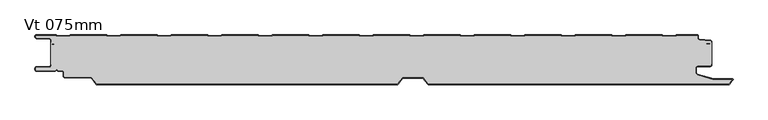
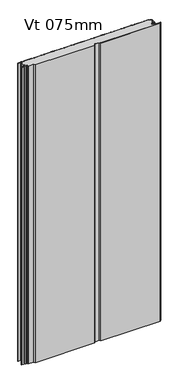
"""IFC4 building model written with IfcOpenShell, lengths in millimetres: plate geometry, KIP-MEX-KW-R19-CP-Vt-KW1_SL : Vt 075mm."""

from ifc_helpers import new_model, si_unit, point, frame, frame_2d, origin, origin_with_axes, place, context, project, spatial, polyline, circle_curve, trimmed, segment, composite_curve, outline, extrude, source, transform, mapped, element, save
from ifc_brep_helpers import plane_surface, cylinder_surface, revolved_surface, advanced_brep


def vt_075mm_7d98ffc3(model_context):
    return source(origin(), model_context, "Body", "SolidModel", [
        advanced_brep(
        [(488.7785899, -14.1740781, 2400.0), (488.6914342, -13.1778834, 2400.0), (494.4799801, -12.6714513, 2400.0), (495.7350457, -11.7512327, 2400.0), (495.7350457, -9.8277288, 2400.0), (494.4792848, -8.9074494, 2400.0), (478.1842394, -7.4894566, 2400.0), (475.4443161, -4.5007512, 2400.0), (475.4443161, -1.0007512, 2400.0), (443.8382986, -1.0007512, 2400.0), (442.7532001, -2.1994992, 2400.0), (422.8212217, -2.1994992, 2400.0), (421.7346975, -1.0, 2400.0), (367.6854138, -1.0, 2400.0), (366.6003153, -2.1994992, 2400.0), (346.668337, -2.1994992, 2400.0), (345.5818127, -1.0, 2400.0), (291.5325291, -1.0, 2400.0), (290.4474305, -2.1994992, 2400.0), (270.5154522, -2.1994992, 2400.0), (269.4289279, -1.0, 2400.0), (215.3796443, -1.0, 2400.0), (214.2945458, -2.1994992, 2400.0), (194.3625675, -2.1994992, 2400.0), (193.2760432, -1.0, 2400.0), (139.2267595, -1.0, 2400.0), (138.141661, -2.1994992, 2400.0), (118.2096827, -2.1994992, 2400.0), (117.1231584, -1.0, 2400.0), (63.0738748, -1.0, 2400.0), (61.9887763, -2.1994992, 2400.0), (42.0567979, -2.1994992, 2400.0), (40.9702737, -1.0, 2400.0), (-13.07901, -1.0, 2400.0), (-14.1641085, -2.1994992, 2400.0), (-34.0960868, -2.1994992, 2400.0), (-35.1826111, -1.0, 2400.0), (-89.230469, -1.0, 2400.0), (-90.3169933, -2.1994992, 2400.0), (-110.2489716, -2.1994992, 2400.0), (-111.3354959, -1.0, 2400.0), (-165.3847795, -1.0, 2400.0), (-166.469878, -2.1994992, 2400.0), (-186.4018563, -2.1994992, 2400.0), (-187.4883806, -1.0, 2400.0), (-241.5362385, -1.0, 2400.0), (-242.6227628, -2.1994992, 2400.0), (-262.5547411, -2.1994992, 2400.0), (-263.6412654, -1.0, 2400.0), (-317.6891233, -1.0, 2400.0), (-318.7756475, -2.1994992, 2400.0), (-338.7076259, -2.1994992, 2400.0), (-339.7941501, -1.0, 2400.0), (-393.842008, -1.0, 2400.0), (-394.9285323, -2.1994992, 2400.0), (-414.8605106, -2.1994992, 2400.0), (-415.9470349, -1.0, 2400.0), (-469.9948928, -1.0, 2400.0), (-471.0814171, -2.1994992, 2400.0), (-491.0133954, -2.1994992, 2400.0), (-492.0999197, -1.0, 2400.0), (-522.505765, -1.0, 2400.0), (-522.505765, -2.5012654, 2400.0), (-520.006135, -5.0008953, 2400.0), (-502.0093092, -5.0008953, 2400.0), (-499.0079862, -8.000131, 2400.0), (-499.0079862, -11.5959732, 2400.0), (-497.766763, -13.0740828, 2400.0), (-494.2244631, -13.6959552, 2400.0), (-494.3973742, -14.6808886, 2400.0), (-497.9396714, -14.0590166, 2400.0), (-500.0000002, -11.7956848, 2400.0), (-500.0000002, -44.3622712, 2400.0), (-497.5115855, -41.8719911, 2400.0), (-492.2480458, -41.8719911, 2400.0), (-492.2480458, -42.8888414, 2400.0), (-497.5062725, -42.8888414, 2400.0), (-499.0056881, -44.3893811, 2400.0), (-499.0056881, -45.8143642, 2400.0), (-502.0059127, -48.8979571, 2400.0), (-521.0430726, -48.8979571, 2400.0), (-522.5064405, -50.3983418, 2400.0), (-522.5064405, -52.3814897, 2400.0), (-521.0062107, -53.8817196, 2400.0), (-493.1202477, -53.8817196, 2400.0), (-490.7060117, -51.4674051, 2400.0), (-488.2917757, -53.8815626, 2400.0), (-482.7060145, -53.8815626, 2400.0), (-479.7060088, -56.8815682, 2400.0), (-479.7060088, -62.3815743, 2400.0), (-478.2556825, -63.8807501, 2400.0), (-438.275811, -63.8807501, 2400.0), (-430.367997, -74.0007512, 2400.0), (22.6630904, -74.0007512, 2400.0), (30.6636913, -64.0, 2400.0), (61.624941, -64.0, 2400.0), (69.6255419, -74.0007512, 2400.0), (522.656057, -74.0007512, 2400.0), (527.9339159, -67.2461374, 2400.0), (499.5757533, -67.2461374, 2400.0), (474.8575959, -60.1479029, 2400.0), (472.6935242, -57.2749195, 2400.0), (472.6935242, -49.8076629, 2400.0), (475.71441, -46.786777, 2400.0), (494.2379226, -46.786777, 2400.0), (495.7320319, -45.2926678, 2400.0), (495.7320319, -43.743257, 2400.0), (494.2336758, -42.244901, 2400.0), (489.7350458, -42.244901, 2400.0), (489.7350458, -41.2447029, 2400.0), (494.2339235, -41.2447029, 2400.0), (496.7325767, -43.7433561, 2400.0), (496.7325767, -11.9319683, 2400.0), (494.5671358, -13.667646, 2400.0), (488.7785899, -14.1740781, 0.0), (494.5671358, -13.667646, 0.0), (496.7325767, -11.9319683, 0.0), (496.7325767, -43.7433561, 0.0), (494.2339235, -41.2447029, 0.0), (489.7350458, -41.2447029, 0.0), (489.7350458, -42.244901, 0.0), (494.2336758, -42.244901, 0.0), (495.7320319, -43.743257, 0.0), (495.7320319, -45.2926678, 0.0), (494.2379226, -46.786777, 0.0), (475.71441, -46.786777, 0.0), (472.6935242, -49.8076629, 0.0), (472.6935242, -57.2749195, 0.0), (474.8575958, -60.1479032, 0.0), (499.5757533, -67.2461374, 0.0), (527.9339159, -67.2461374, 0.0), (522.656057, -74.0007512, 0.0), (69.6255419, -74.0007512, 0.0), (61.624941, -64.0, 0.0), (30.6636913, -64.0, 0.0), (22.6630904, -74.0007512, 0.0), (-430.367997, -74.0007512, 0.0), (-438.275811, -63.8807501, 0.0), (-478.2556825, -63.8807501, 0.0), (-479.7060088, -62.3815743, 0.0), (-479.7060088, -56.8815682, 0.0), (-482.7060145, -53.8815626, 0.0), (-488.2917757, -53.8815626, 0.0), (-490.7060117, -51.4674051, 0.0), (-493.1202477, -53.8817196, 0.0), (-521.0062107, -53.8817196, 0.0), (-522.5064405, -52.3814897, 0.0), (-522.5064405, -50.3983418, 0.0), (-521.0430726, -48.8979571, 0.0), (-502.0059127, -48.8979571, 0.0), (-499.0056881, -45.8143642, 0.0), (-499.0056881, -44.3893811, 0.0), (-497.5062725, -42.8888414, 0.0), (-492.2480458, -42.8888414, 0.0), (-492.2480458, -41.8719911, 0.0), (-497.5115855, -41.8719911, 0.0), (-500.0000002, -44.3622712, 0.0), (-500.0000002, -11.7956848, 0.0), (-497.9396714, -14.0590167, 0.0), (-494.3973742, -14.6808886, 0.0), (-494.2244631, -13.6959552, 0.0), (-497.766763, -13.0740827, 0.0), (-499.0079862, -11.5959732, 0.0), (-499.0079862, -8.000131, 0.0), (-502.0093092, -5.0008953, 0.0), (-520.006135, -5.0008953, 0.0), (-522.505765, -2.5012654, 0.0), (-522.505765, -1.0, 0.0), (-492.0999197, -1.0, 0.0), (-491.0133954, -2.1994992, 0.0), (-471.0814171, -2.1994992, 0.0), (-469.9948928, -1.0, 0.0), (-415.9470349, -1.0, 0.0), (-414.8605106, -2.1994992, 0.0), (-394.9285323, -2.1994992, 0.0), (-393.842008, -1.0, 0.0), (-339.7941501, -1.0, 0.0), (-338.7076259, -2.1994992, 0.0), (-318.7756475, -2.1994992, 0.0), (-317.6891233, -1.0, 0.0), (-263.6412654, -1.0, 0.0), (-262.5547411, -2.1994992, 0.0), (-242.6227628, -2.1994992, 0.0), (-241.5362385, -1.0, 0.0), (-187.4883806, -1.0, 0.0), (-186.4018563, -2.1994992, 0.0), (-166.469878, -2.1994992, 0.0), (-165.3847795, -1.0, 0.0), (-111.3354959, -1.0, 0.0), (-110.2489716, -2.1994992, 0.0), (-90.3169933, -2.1994992, 0.0), (-89.230469, -1.0, 0.0), (-35.1826111, -1.0, 0.0), (-34.0960868, -2.1994992, 0.0), (-14.1641085, -2.1994992, 0.0), (-13.07901, -1.0, 0.0), (40.9702737, -1.0, 0.0), (42.0567979, -2.1994992, 0.0), (61.9887763, -2.1994992, 0.0), (63.0738748, -1.0, 0.0), (117.1231584, -1.0, 0.0), (118.2096827, -2.1994992, 0.0), (138.141661, -2.1994992, 0.0), (139.2267595, -1.0, 0.0), (193.2760432, -1.0, 0.0), (194.3625675, -2.1994992, 0.0), (214.2945458, -2.1994992, 0.0), (215.3796443, -1.0, 0.0), (269.4289279, -1.0, 0.0), (270.5154522, -2.1994992, 0.0), (290.4474305, -2.1994992, 0.0), (291.5325291, -1.0, 0.0), (345.5818127, -1.0, 0.0), (346.668337, -2.1994992, 0.0), (366.6003153, -2.1994992, 0.0), (367.6854138, -1.0, 0.0), (421.7346975, -1.0, 0.0), (422.8212217, -2.1994992, 0.0), (442.7532001, -2.1994992, 0.0), (443.8382986, -1.0007512, 0.0), (475.4443161, -1.0007512, 0.0), (475.4443161, -4.5007512, 0.0), (478.1842394, -7.4894566, 0.0), (494.4792848, -8.9074494, 0.0), (495.7350457, -9.8277288, 0.0), (495.7350457, -11.7512327, 0.0), (494.4799801, -12.6714513, 0.0), (488.6914342, -13.1778834, 0.0)],
        [
            (0, 1),
            (1, 2),
            (2, 3, circle_curve(frame((494.3492464, -11.1771592, 2400.0), z_axis=(0.0, 0.0, 1.0), x_axis=(-1.0, 0.0, 0.0)), 1.5)),
            (3, 4),
            (4, 5, circle_curve(frame((494.3492464, -10.4018021, 2400.0), z_axis=(0.0, 0.0, 1.0), x_axis=(-1.0, 0.0, 0.0)), 1.4999999)),
            (5, 6),
            (6, 7, circle_curve(frame((478.4443161, -4.5007512, 2400.0), z_axis=(0.0, 0.0, -1.0), x_axis=(-1.0, 0.0, 0.0)), 3.0)),
            (7, 8),
            (8, 9),
            (9, 10),
            (10, 11),
            (11, 12),
            (12, 13),
            (13, 14),
            (14, 15),
            (15, 16),
            (16, 17),
            (17, 18),
            (18, 19),
            (19, 20),
            (20, 21),
            (21, 22),
            (22, 23),
            (23, 24),
            (24, 25),
            (25, 26),
            (26, 27),
            (27, 28),
            (28, 29),
            (29, 30),
            (30, 31),
            (31, 32),
            (32, 33),
            (33, 34),
            (34, 35),
            (35, 36),
            (36, 37),
            (37, 38),
            (38, 39),
            (39, 40),
            (40, 41),
            (41, 42),
            (42, 43),
            (43, 44),
            (44, 45),
            (45, 46),
            (46, 47),
            (47, 48),
            (48, 49),
            (49, 50),
            (50, 51),
            (51, 52),
            (52, 53),
            (53, 54),
            (54, 55),
            (55, 56),
            (56, 57),
            (57, 58),
            (58, 59),
            (59, 60),
            (60, 61),
            (61, 62),
            (62, 63, circle_curve(frame((-520.006135, -2.5012654, 2400.0), z_axis=(0.0, 0.0, 1.0), x_axis=(-1.0, 0.0, 0.0)), 2.4996299)),
            (63, 64),
            (64, 65, circle_curve(frame((-502.0093092, -8.002219, 2400.0), z_axis=(0.0, 0.0, -1.0), x_axis=(-1.0, 0.0, 0.0)), 3.0013237)),
            (65, 66),
            (66, 67, circle_curve(frame((-497.5072719, -11.5959732, 2400.0), z_axis=(0.0, 0.0, 1.0), x_axis=(-1.0, 0.0, 0.0)), 1.5007143)),
            (67, 68),
            (68, 69),
            (69, 70),
            (70, 71, circle_curve(frame((-497.5072673, -11.5959632, 2400.0), z_axis=(0.0, 0.0, -1.0), x_axis=(-1.0, 0.0, 0.0)), 2.500721)),
            (71, 72),
            (72, 73, circle_curve(frame((-497.5097194, -44.3622712, 2400.0), z_axis=(0.0, 0.0, -1.0), x_axis=(0.0, 1.0, 0.0)), 2.4902807)),
            (73, 74),
            (74, 75),
            (75, 76),
            (76, 77, circle_curve(frame((-497.5051479, -44.3893811, 2400.0), z_axis=(0.0, 0.0, 1.0), x_axis=(0.0, 1.0, 0.0)), 1.5005402)),
            (77, 78),
            (78, 79, circle_curve(frame((-502.0059127, -45.8966056, 2400.0), z_axis=(0.0, 0.0, -1.0), x_axis=(0.0, 1.0, 0.0)), 3.0013516)),
            (79, 80),
            (80, 81, circle_curve(frame((-521.0055876, -50.3983418, 2400.0), z_axis=(0.0, 0.0, 1.0), x_axis=(0.0, 1.0, 0.0)), 1.5008529)),
            (81, 82),
            (82, 83, circle_curve(frame((-521.0062107, -52.3814897, 2400.0), z_axis=(0.0, 0.0, 1.0), x_axis=(0.0, 1.0, 0.0)), 1.5002298)),
            (83, 84),
            (84, 85),
            (85, 86),
            (86, 87),
            (87, 88, circle_curve(frame((-482.7060145, -56.8815682, 2400.0), z_axis=(0.0, 0.0, -1.0), x_axis=(0.0, 1.0, 0.0)), 3.0000056)),
            (88, 89),
            (89, 90, circle_curve(frame((-478.2060104, -62.3815743, 2400.0), z_axis=(0.0, 0.0, 1.0), x_axis=(0.0, 1.0, 0.0)), 1.4999984)),
            (90, 91),
            (91, 92),
            (92, 93),
            (93, 94),
            (94, 95),
            (95, 96),
            (96, 97),
            (97, 98),
            (98, 99),
            (99, 100),
            (100, 101, circle_curve(frame((475.6826214, -57.2749195, 2400.0), z_axis=(0.0, 0.0, -1.0), x_axis=(0.0, 1.0, 0.0)), 2.9890972)),
            (101, 102),
            (102, 103, circle_curve(frame((475.71441, -49.8076629, 2400.0), z_axis=(0.0, 0.0, -1.0), x_axis=(0.0, 1.0, 0.0)), 3.0208858)),
            (103, 104),
            (104, 105, circle_curve(frame((494.2379226, -45.2926678, 2400.0), z_axis=(0.0, 0.0, 1.0), x_axis=(0.0, 1.0, 0.0)), 1.4941093)),
            (105, 106),
            (106, 107, circle_curve(frame((494.2336758, -43.743257, 2400.0), z_axis=(0.0, 0.0, 1.0), x_axis=(0.0, 1.0, 0.0)), 1.4983561)),
            (107, 108),
            (108, 109),
            (109, 110),
            (110, 111, circle_curve(frame((494.2339235, -43.7433561, 2400.0), z_axis=(0.0, 0.0, -1.0), x_axis=(0.0, 1.0, 0.0)), 2.4986532)),
            (111, 112),
            (112, 113, circle_curve(frame((494.3492464, -11.1771592, 2400.0), z_axis=(0.0, 0.0, -1.0), x_axis=(-1.0, 0.0, 0.0)), 2.5)),
            (113, 0),
            (114, 115),
            (115, 116, circle_curve(frame((494.3492464, -11.1771592, 0.0), z_axis=(0.0, 0.0, 1.0), x_axis=(-1.0, 0.0, 0.0)), 2.5)),
            (116, 117),
            (117, 118, circle_curve(frame((494.2339235, -43.7433561, 0.0), z_axis=(0.0, 0.0, 1.0), x_axis=(0.0, 1.0, 0.0)), 2.4986532)),
            (118, 119),
            (119, 120),
            (120, 121),
            (121, 122, circle_curve(frame((494.2336758, -43.743257, 0.0), z_axis=(0.0, 0.0, -1.0), x_axis=(0.0, 1.0, 0.0)), 1.4983561)),
            (122, 123),
            (123, 124, circle_curve(frame((494.2379226, -45.2926678, 0.0), z_axis=(0.0, 0.0, -1.0), x_axis=(0.0, 1.0, 0.0)), 1.4941093)),
            (124, 125),
            (125, 126, circle_curve(frame((475.71441, -49.8076629, 0.0), z_axis=(0.0, 0.0, 1.0), x_axis=(0.0, 1.0, 0.0)), 3.0208858)),
            (126, 127),
            (127, 128, circle_curve(frame((475.6826214, -57.2749195, 0.0), z_axis=(0.0, 0.0, 1.0), x_axis=(0.0, 1.0, 0.0)), 2.9890972)),
            (128, 129),
            (129, 130),
            (130, 131),
            (131, 132),
            (132, 133),
            (133, 134),
            (134, 135),
            (135, 136),
            (136, 137),
            (137, 138),
            (138, 139, circle_curve(frame((-478.2060104, -62.3815743, 0.0), z_axis=(0.0, 0.0, -1.0), x_axis=(0.0, 1.0, 0.0)), 1.4999984)),
            (139, 140),
            (140, 141, circle_curve(frame((-482.7060145, -56.8815682, 0.0), z_axis=(0.0, 0.0, 1.0), x_axis=(0.0, 1.0, 0.0)), 3.0000056)),
            (141, 142),
            (142, 143),
            (143, 144),
            (144, 145),
            (145, 146, circle_curve(frame((-521.0062107, -52.3814897, 0.0), z_axis=(0.0, 0.0, -1.0), x_axis=(0.0, 1.0, 0.0)), 1.5002298)),
            (146, 147),
            (147, 148, circle_curve(frame((-521.0055876, -50.3983418, 0.0), z_axis=(0.0, 0.0, -1.0), x_axis=(0.0, 1.0, 0.0)), 1.5008529)),
            (148, 149),
            (149, 150, circle_curve(frame((-502.0059127, -45.8966056, 0.0), z_axis=(0.0, 0.0, 1.0), x_axis=(0.0, 1.0, 0.0)), 3.0013516)),
            (150, 151),
            (151, 152, circle_curve(frame((-497.5051479, -44.3893811, 0.0), z_axis=(0.0, 0.0, -1.0), x_axis=(0.0, 1.0, 0.0)), 1.5005402)),
            (152, 153),
            (153, 154),
            (154, 155),
            (155, 156, circle_curve(frame((-497.5097194, -44.3622712, 0.0), z_axis=(0.0, 0.0, 1.0), x_axis=(0.0, 1.0, 0.0)), 2.4902807)),
            (156, 157),
            (157, 158, circle_curve(frame((-497.5072673, -11.5959632, 0.0), z_axis=(0.0, 0.0, 1.0), x_axis=(-1.0, 0.0, 0.0)), 2.500721)),
            (158, 159),
            (159, 160),
            (160, 161),
            (161, 162, circle_curve(frame((-497.5072719, -11.5959732, 0.0), z_axis=(0.0, 0.0, -1.0), x_axis=(-1.0, 0.0, 0.0)), 1.5007143)),
            (162, 163),
            (163, 164, circle_curve(frame((-502.0093092, -8.002219, 0.0), z_axis=(0.0, 0.0, 1.0), x_axis=(-1.0, 0.0, 0.0)), 3.0013237)),
            (164, 165),
            (165, 166, circle_curve(frame((-520.006135, -2.5012654, 0.0), z_axis=(0.0, 0.0, -1.0), x_axis=(-1.0, 0.0, 0.0)), 2.4996299)),
            (166, 167),
            (167, 168),
            (168, 169),
            (169, 170),
            (170, 171),
            (171, 172),
            (172, 173),
            (173, 174),
            (174, 175),
            (175, 176),
            (176, 177),
            (177, 178),
            (178, 179),
            (179, 180),
            (180, 181),
            (181, 182),
            (182, 183),
            (183, 184),
            (184, 185),
            (185, 186),
            (186, 187),
            (187, 188),
            (188, 189),
            (189, 190),
            (190, 191),
            (191, 192),
            (192, 193),
            (193, 194),
            (194, 195),
            (195, 196),
            (196, 197),
            (197, 198),
            (198, 199),
            (199, 200),
            (200, 201),
            (201, 202),
            (202, 203),
            (203, 204),
            (204, 205),
            (205, 206),
            (206, 207),
            (207, 208),
            (208, 209),
            (209, 210),
            (210, 211),
            (211, 212),
            (212, 213),
            (213, 214),
            (214, 215),
            (215, 216),
            (216, 217),
            (217, 218),
            (218, 219),
            (219, 220),
            (220, 221),
            (221, 222, circle_curve(frame((478.4443161, -4.5007512, 0.0), z_axis=(0.0, 0.0, 1.0), x_axis=(-1.0, 0.0, 0.0)), 3.0)),
            (222, 223),
            (223, 224, circle_curve(frame((494.3492464, -10.4018021, 0.0), z_axis=(0.0, 0.0, -1.0), x_axis=(-1.0, 0.0, 0.0)), 1.4999999)),
            (224, 225),
            (225, 226, circle_curve(frame((494.3492464, -11.1771592, 0.0), z_axis=(0.0, 0.0, -1.0), x_axis=(-1.0, 0.0, 0.0)), 1.5)),
            (226, 227),
            (227, 114),
            (113, 115),
            (114, 0),
            (112, 116),
            (111, 117),
            (110, 118),
            (109, 119),
            (108, 120),
            (107, 121),
            (106, 122),
            (105, 123),
            (104, 124),
            (103, 125),
            (102, 126),
            (101, 127),
            (100, 128),
            (99, 129),
            (98, 130),
            (97, 131),
            (96, 132),
            (92, 136),
            (135, 93),
            (91, 137),
            (90, 138),
            (89, 139),
            (88, 140),
            (87, 141),
            (86, 142),
            (85, 143),
            (84, 144),
            (83, 145),
            (82, 146),
            (81, 147),
            (80, 148),
            (79, 149),
            (78, 150),
            (77, 151),
            (76, 152),
            (75, 153),
            (74, 154),
            (73, 155),
            (72, 156),
            (71, 157),
            (70, 158),
            (69, 159),
            (68, 160),
            (67, 161),
            (66, 162),
            (65, 163),
            (64, 164),
            (63, 165),
            (62, 166),
            (61, 167),
            (60, 168),
            (59, 169),
            (58, 170),
            (57, 171),
            (56, 172),
            (55, 173),
            (54, 174),
            (53, 175),
            (52, 176),
            (51, 177),
            (50, 178),
            (49, 179),
            (48, 180),
            (47, 181),
            (46, 182),
            (45, 183),
            (44, 184),
            (43, 185),
            (42, 186),
            (41, 187),
            (40, 188),
            (39, 189),
            (38, 190),
            (37, 191),
            (36, 192),
            (35, 193),
            (34, 194),
            (33, 195),
            (32, 196),
            (31, 197),
            (30, 198),
            (29, 199),
            (28, 200),
            (27, 201),
            (26, 202),
            (25, 203),
            (24, 204),
            (23, 205),
            (22, 206),
            (21, 207),
            (20, 208),
            (19, 209),
            (18, 210),
            (17, 211),
            (16, 212),
            (15, 213),
            (14, 214),
            (13, 215),
            (12, 216),
            (11, 217),
            (10, 218),
            (9, 219),
            (8, 220),
            (7, 221),
            (6, 222),
            (5, 223),
            (4, 224),
            (3, 225),
            (2, 226),
            (1, 227),
            (95, 133),
            (94, 134),
        ],
        [
            plane_surface(frame((-1.6597565, -74.0, 2400.0), z_axis=(0.0, 0.0, 1.0), x_axis=(0.0, -1.0, 0.0))),
            plane_surface(frame((-1.6597565, -74.0, 0.0), z_axis=(0.0, 0.0, -1.0), x_axis=(0.0, -1.0, 0.0))),
            plane_surface(frame((488.7785899, -14.1740781, 2400.0), z_axis=(-0.08715574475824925, 0.9961946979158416, 0.0), x_axis=(0.0, 0.0, -1.0))),
            revolved_surface(polyline([(491.8492464, -11.1771592, 0.0), (491.8492464, -11.1771592, 2400.0)]), (494.3492464, -11.1771592, 2400.0), (0.0, 0.0, -1.0)),
            plane_surface(frame((496.7325767, -11.9319683, 2400.0), z_axis=(1.0, 0.0, 0.0), x_axis=(0.0, 0.0, -1.0))),
            revolved_surface(polyline([(494.2339235, -41.2447029, 0.0), (494.2339235, -41.2447029, 2400.0)]), (494.2339235, -43.7433561, 2400.0), (0.0, 0.0, -1.0)),
            plane_surface(frame((494.2339235, -41.2447029, 2400.0), z_axis=(0.0, -1.0, 0.0), x_axis=(0.0, 0.0, -1.0))),
            plane_surface(frame((489.7350458, -41.2447029, 2400.0), z_axis=(1.0, 0.0, 0.0), x_axis=(0.0, 0.0, -1.0))),
            plane_surface(frame((489.7350458, -42.244901, 2400.0), z_axis=(0.0, 1.0, 0.0), x_axis=(0.0, 0.0, -1.0))),
            cylinder_surface(frame((494.2336758, -43.743257, 2400.0), z_axis=(0.0, 0.0, 1.0), x_axis=(0.0, 1.0, 0.0)), 1.4983561),
            plane_surface(frame((495.7320319, -43.743257, 2400.0), z_axis=(1.0, 0.0, 0.0), x_axis=(0.0, 0.0, -1.0))),
            cylinder_surface(frame((494.2379226, -45.2926678, 2400.0), z_axis=(0.0, 0.0, 1.0), x_axis=(0.0, 1.0, 0.0)), 1.4941093),
            plane_surface(frame((494.2379226, -46.786777, 2400.0), z_axis=(0.0, -1.0, 0.0), x_axis=(0.0, 0.0, -1.0))),
            revolved_surface(polyline([(475.71441, -46.786777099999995, 0.0), (475.71441, -46.786777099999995, 2400.0)]), (475.71441, -49.8076629, 2400.0), (0.0, 0.0, -1.0)),
            plane_surface(frame((472.6935242, -49.8076629, 2400.0), z_axis=(1.0, 0.0, 0.0), x_axis=(0.0, 0.0, -1.0))),
            revolved_surface(polyline([(475.6826214, -54.28582230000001, 0.0), (475.6826214, -54.28582230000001, 2400.0)]), (475.6826214, -57.2749195, 2400.0), (0.0, 0.0, -1.0)),
            plane_surface(frame((474.8575959, -60.1479029, 2400.0), z_axis=(0.27601161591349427, 0.9611542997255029, 0.0), x_axis=(0.0, 0.0, -1.0))),
            plane_surface(frame((499.5757533, -67.2461374, 2400.0), z_axis=(0.0, 1.0, 0.0), x_axis=(0.0, 0.0, -1.0))),
            plane_surface(frame((527.9339159, -67.2461374, 2400.0), z_axis=(0.7879781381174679, -0.6157032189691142, 0.0), x_axis=(0.0, 0.0, -1.0))),
            plane_surface(frame((522.656057, -74.0007512, 2400.0), z_axis=(0.0, -1.0, 0.0), x_axis=(0.0, 0.0, -1.0))),
            plane_surface(frame((22.6630904, -74.0007512, 2400.0), z_axis=(0.0, -1.0, 0.0), x_axis=(0.0, 0.0, -1.0))),
            plane_surface(frame((-430.367997, -74.0007512, 2400.0), z_axis=(-0.7879653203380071, -0.6157196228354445, 0.0), x_axis=(0.0, 0.0, -1.0))),
            plane_surface(frame((-438.275811, -63.8807501, 2400.0), z_axis=(0.0, -1.0, 0.0), x_axis=(0.0, 0.0, -1.0))),
            cylinder_surface(frame((-478.2060104, -62.3815743, 2400.0), z_axis=(0.0, 0.0, 1.0), x_axis=(0.0, 1.0, 0.0)), 1.4999984),
            plane_surface(frame((-479.7060088, -62.3815743, 2400.0), z_axis=(-1.0, 0.0, 0.0), x_axis=(0.0, 0.0, -1.0))),
            revolved_surface(polyline([(-482.7060145, -53.881562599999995, 0.0), (-482.7060145, -53.881562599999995, 2400.0)]), (-482.7060145, -56.8815682, 2400.0), (0.0, 0.0, -1.0)),
            plane_surface(frame((-482.7060145, -53.8815626, 2400.0), z_axis=(0.0, -1.0, 0.0), x_axis=(0.0, 0.0, -1.0))),
            plane_surface(frame((-488.2917757, -53.8815626, 2400.0), z_axis=(-0.7070952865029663, -0.707118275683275, 0.0), x_axis=(0.0, 0.0, -1.0))),
            plane_surface(frame((-490.7060117, -51.4674051, 2400.0), z_axis=(0.7071182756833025, -0.7070952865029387, 0.0), x_axis=(0.0, 0.0, -1.0))),
            plane_surface(frame((-493.1202477, -53.8817196, 2400.0), z_axis=(0.0, -1.0, 0.0), x_axis=(0.0, 0.0, -1.0))),
            cylinder_surface(frame((-521.0062107, -52.3814897, 2400.0), z_axis=(0.0, 0.0, 1.0), x_axis=(0.0, 1.0, 0.0)), 1.5002298),
            plane_surface(frame((-522.5064405, -52.3814897, 2400.0), z_axis=(-1.0, 0.0, 0.0), x_axis=(0.0, 0.0, -1.0))),
            cylinder_surface(frame((-521.0055876, -50.3983418, 2400.0), z_axis=(0.0, 0.0, 1.0), x_axis=(0.0, 1.0, 0.0)), 1.5008529),
            plane_surface(frame((-521.0430726, -48.8979571, 2400.0), z_axis=(0.0, 1.0, 0.0), x_axis=(0.0, 0.0, -1.0))),
            revolved_surface(polyline([(-502.0059127, -42.895254, 0.0), (-502.0059127, -42.895254, 2400.0)]), (-502.0059127, -45.8966056, 2400.0), (0.0, 0.0, -1.0)),
            plane_surface(frame((-499.0056881, -45.8143642, 2400.0), z_axis=(-1.0, 0.0, 0.0), x_axis=(0.0, 0.0, -1.0))),
            cylinder_surface(frame((-497.5051479, -44.3893811, 2400.0), z_axis=(0.0, 0.0, 1.0), x_axis=(0.0, 1.0, 0.0)), 1.5005402),
            plane_surface(frame((-497.5062725, -42.8888414, 2400.0), z_axis=(0.0, 1.0, 0.0), x_axis=(0.0, 0.0, -1.0))),
            plane_surface(frame((-492.2480458, -42.8888414, 2400.0), z_axis=(-1.0, 0.0, 0.0), x_axis=(0.0, 0.0, -1.0))),
            plane_surface(frame((-492.2480458, -41.8719911, 2400.0), z_axis=(0.0, -1.0, 0.0), x_axis=(0.0, 0.0, -1.0))),
            revolved_surface(polyline([(-497.5097194, -41.8719905, 0.0), (-497.5097194, -41.8719905, 2400.0)]), (-497.5097194, -44.3622712, 2400.0), (0.0, 0.0, -1.0)),
            plane_surface(frame((-500.0000002, -44.3622712, 2400.0), z_axis=(-1.0, 0.0, 0.0), x_axis=(0.0, 0.0, -1.0))),
            revolved_surface(polyline([(-500.0079883, -11.5959632, 0.0), (-500.0079883, -11.5959632, 2400.0)]), (-497.5072673, -11.5959632, 2400.0), (0.0, 0.0, -1.0)),
            plane_surface(frame((-497.9396714, -14.0590166, 2400.0), z_axis=(0.17291178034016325, 0.9849373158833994, 0.0), x_axis=(0.0, 0.0, -1.0))),
            plane_surface(frame((-494.3973742, -14.6808886, 2400.0), z_axis=(-0.9849373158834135, 0.17291178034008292, 0.0), x_axis=(0.0, 0.0, -1.0))),
            plane_surface(frame((-494.2244631, -13.6959552, 2400.0), z_axis=(-0.17291178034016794, -0.9849373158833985, 0.0), x_axis=(0.0, 0.0, -1.0))),
            cylinder_surface(frame((-497.5072719, -11.5959732, 2400.0), z_axis=(0.0, 0.0, 1.0), x_axis=(-1.0, 0.0, 0.0)), 1.5007143),
            plane_surface(frame((-499.0079862, -11.5959732, 2400.0), z_axis=(-1.0, 0.0, 0.0), x_axis=(0.0, 0.0, -1.0))),
            revolved_surface(polyline([(-505.0106329, -8.002219, 0.0), (-505.0106329, -8.002219, 2400.0)]), (-502.0093092, -8.002219, 2400.0), (0.0, 0.0, -1.0)),
            plane_surface(frame((-502.0093092, -5.0008953, 2400.0), z_axis=(0.0, -1.0, 0.0), x_axis=(0.0, 0.0, -1.0))),
            cylinder_surface(frame((-520.006135, -2.5012654, 2400.0), z_axis=(0.0, 0.0, 1.0), x_axis=(-1.0, 0.0, 0.0)), 2.4996299),
            plane_surface(frame((-522.505765, -2.5012654, 2400.0), z_axis=(-1.0, 0.0, 0.0), x_axis=(0.0, 0.0, -1.0))),
            plane_surface(frame((-522.505765, -1.0, 2400.0), z_axis=(0.0, 1.0, 0.0), x_axis=(0.0, 0.0, -1.0))),
            plane_surface(frame((-492.0999197, -1.0, 2400.0), z_axis=(0.7411473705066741, 0.671342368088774, 0.0), x_axis=(0.0, 0.0, -1.0))),
            plane_surface(frame((-491.0133954, -2.1994992, 2400.0), z_axis=(0.0, 1.0, 0.0), x_axis=(0.0, 0.0, -1.0))),
            plane_surface(frame((-471.0814171, -2.1994992, 2400.0), z_axis=(-0.7411473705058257, 0.6713423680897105, 0.0), x_axis=(0.0, 0.0, -1.0))),
            plane_surface(frame((-469.9948928, -1.0, 2400.0), z_axis=(0.0, 1.0, 0.0), x_axis=(0.0, 0.0, -1.0))),
            plane_surface(frame((-415.9470349, -1.0, 2400.0), z_axis=(0.7411473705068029, 0.6713423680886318, 0.0), x_axis=(0.0, 0.0, -1.0))),
            plane_surface(frame((-414.8605106, -2.1994992, 2400.0), z_axis=(0.0, 1.0, 0.0), x_axis=(0.0, 0.0, -1.0))),
            plane_surface(frame((-394.9285323, -2.1994992, 2400.0), z_axis=(-0.7411473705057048, 0.671342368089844, 0.0), x_axis=(0.0, 0.0, -1.0))),
            plane_surface(frame((-393.842008, -1.0, 2400.0), z_axis=(0.0, 1.0, 0.0), x_axis=(0.0, 0.0, -1.0))),
            plane_surface(frame((-339.7941501, -1.0, 2400.0), z_axis=(0.7411473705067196, 0.6713423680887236, 0.0), x_axis=(0.0, 0.0, -1.0))),
            plane_surface(frame((-338.7076259, -2.1994992, 2400.0), z_axis=(0.0, 1.0, 0.0), x_axis=(0.0, 0.0, -1.0))),
            plane_surface(frame((-318.7756475, -2.1994992, 2400.0), z_axis=(-0.7411473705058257, 0.6713423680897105, 0.0), x_axis=(0.0, 0.0, -1.0))),
            plane_surface(frame((-317.6891233, -1.0, 2400.0), z_axis=(0.0, 1.0, 0.0), x_axis=(0.0, 0.0, -1.0))),
            plane_surface(frame((-263.6412654, -1.0, 2400.0), z_axis=(0.7411473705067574, 0.6713423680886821, 0.0), x_axis=(0.0, 0.0, -1.0))),
            plane_surface(frame((-262.5547411, -2.1994992, 2400.0), z_axis=(0.0, 1.0, 0.0), x_axis=(0.0, 0.0, -1.0))),
            plane_surface(frame((-242.6227628, -2.1994992, 2400.0), z_axis=(-0.7411473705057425, 0.6713423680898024, 0.0), x_axis=(0.0, 0.0, -1.0))),
            plane_surface(frame((-241.5362385, -1.0, 2400.0), z_axis=(0.0, 1.0, 0.0), x_axis=(0.0, 0.0, -1.0))),
            plane_surface(frame((-187.4883806, -1.0, 2400.0), z_axis=(0.7411473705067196, 0.6713423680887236, 0.0), x_axis=(0.0, 0.0, -1.0))),
            plane_surface(frame((-186.4018563, -2.1994992, 2400.0), z_axis=(0.0, 1.0, 0.0), x_axis=(0.0, 0.0, -1.0))),
            plane_surface(frame((-166.469878, -2.1994992, 2400.0), z_axis=(-0.7415858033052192, 0.6708580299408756, 0.0), x_axis=(0.0, 0.0, -1.0))),
            plane_surface(frame((-165.3847795, -1.0, 2400.0), z_axis=(0.0, 1.0, 0.0), x_axis=(0.0, 0.0, -1.0))),
            plane_surface(frame((-111.3354959, -1.0, 2400.0), z_axis=(0.7411473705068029, 0.6713423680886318, 0.0), x_axis=(0.0, 0.0, -1.0))),
            plane_surface(frame((-110.2489716, -2.1994992, 2400.0), z_axis=(0.0, 1.0, 0.0), x_axis=(0.0, 0.0, -1.0))),
            plane_surface(frame((-90.3169933, -2.1994992, 2400.0), z_axis=(-0.7411473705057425, 0.6713423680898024, 0.0), x_axis=(0.0, 0.0, -1.0))),
            plane_surface(frame((-89.230469, -1.0, 2400.0), z_axis=(0.0, 1.0, 0.0), x_axis=(0.0, 0.0, -1.0))),
            plane_surface(frame((-35.1826111, -1.0, 2400.0), z_axis=(0.7411473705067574, 0.6713423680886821, 0.0), x_axis=(0.0, 0.0, -1.0))),
            plane_surface(frame((-34.0960868, -2.1994992, 2400.0), z_axis=(0.0, 1.0, 0.0), x_axis=(0.0, 0.0, -1.0))),
            plane_surface(frame((-14.1641085, -2.1994992, 2400.0), z_axis=(-0.7415858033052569, 0.670858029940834, 0.0), x_axis=(0.0, 0.0, -1.0))),
            plane_surface(frame((-13.07901, -1.0, 2400.0), z_axis=(0.0, 1.0, 0.0), x_axis=(0.0, 0.0, -1.0))),
            plane_surface(frame((40.9702737, -1.0, 2400.0), z_axis=(0.7411473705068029, 0.6713423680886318, 0.0), x_axis=(0.0, 0.0, -1.0))),
            plane_surface(frame((42.0567979, -2.1994992, 2400.0), z_axis=(0.0, 1.0, 0.0), x_axis=(0.0, 0.0, -1.0))),
            plane_surface(frame((61.9887763, -2.1994992, 2400.0), z_axis=(-0.7415858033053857, 0.6708580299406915, 0.0), x_axis=(0.0, 0.0, -1.0))),
            plane_surface(frame((63.0738748, -1.0, 2400.0), z_axis=(0.0, 1.0, 0.0), x_axis=(0.0, 0.0, -1.0))),
            plane_surface(frame((117.1231584, -1.0, 2400.0), z_axis=(0.7411473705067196, 0.6713423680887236, 0.0), x_axis=(0.0, 0.0, -1.0))),
            plane_surface(frame((118.2096827, -2.1994992, 2400.0), z_axis=(0.0, 1.0, 0.0), x_axis=(0.0, 0.0, -1.0))),
            plane_surface(frame((138.141661, -2.1994992, 2400.0), z_axis=(-0.7415858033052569, 0.670858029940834, 0.0), x_axis=(0.0, 0.0, -1.0))),
            plane_surface(frame((139.2267595, -1.0, 2400.0), z_axis=(0.0, 1.0, 0.0), x_axis=(0.0, 0.0, -1.0))),
            plane_surface(frame((193.2760432, -1.0, 2400.0), z_axis=(0.7411473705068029, 0.6713423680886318, 0.0), x_axis=(0.0, 0.0, -1.0))),
            plane_surface(frame((194.3625675, -2.1994992, 2400.0), z_axis=(0.0, 1.0, 0.0), x_axis=(0.0, 0.0, -1.0))),
            plane_surface(frame((214.2945458, -2.1994992, 2400.0), z_axis=(-0.7415858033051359, 0.6708580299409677, 0.0), x_axis=(0.0, 0.0, -1.0))),
            plane_surface(frame((215.3796443, -1.0, 2400.0), z_axis=(0.0, 1.0, 0.0), x_axis=(0.0, 0.0, -1.0))),
            plane_surface(frame((269.4289279, -1.0, 2400.0), z_axis=(0.7411473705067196, 0.6713423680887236, 0.0), x_axis=(0.0, 0.0, -1.0))),
            plane_surface(frame((270.5154522, -2.1994992, 2400.0), z_axis=(0.0, 1.0, 0.0), x_axis=(0.0, 0.0, -1.0))),
            plane_surface(frame((290.4474305, -2.1994992, 2400.0), z_axis=(-0.7415858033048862, 0.6708580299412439, 0.0), x_axis=(0.0, 0.0, -1.0))),
            plane_surface(frame((291.5325291, -1.0, 2400.0), z_axis=(0.0, 1.0, 0.0), x_axis=(0.0, 0.0, -1.0))),
            plane_surface(frame((345.5818127, -1.0, 2400.0), z_axis=(0.7411473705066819, 0.6713423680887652, 0.0), x_axis=(0.0, 0.0, -1.0))),
            plane_surface(frame((346.668337, -2.1994992, 2400.0), z_axis=(0.0, 1.0, 0.0), x_axis=(0.0, 0.0, -1.0))),
            plane_surface(frame((366.6003153, -2.1994992, 2400.0), z_axis=(-0.7415858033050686, 0.6708580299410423, 0.0), x_axis=(0.0, 0.0, -1.0))),
            plane_surface(frame((367.6854138, -1.0, 2400.0), z_axis=(0.0, 1.0, 0.0), x_axis=(0.0, 0.0, -1.0))),
            plane_surface(frame((421.7346975, -1.0, 2400.0), z_axis=(0.7411473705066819, 0.6713423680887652, 0.0), x_axis=(0.0, 0.0, -1.0))),
            plane_surface(frame((422.8212217, -2.1994992, 2400.0), z_axis=(0.0, 1.0, 0.0), x_axis=(0.0, 0.0, -1.0))),
            plane_surface(frame((442.7532001, -2.1994992, 2400.0), z_axis=(-0.7413766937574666, 0.6710891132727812, 0.0), x_axis=(0.0, 0.0, -1.0))),
            plane_surface(frame((443.8382986, -1.0007512, 2400.0), z_axis=(0.0, 1.0, 0.0), x_axis=(0.0, 0.0, -1.0))),
            plane_surface(frame((475.4443161, -1.0007512, 2400.0), z_axis=(1.0, 0.0, 0.0), x_axis=(0.0, 0.0, -1.0))),
            revolved_surface(polyline([(475.4443161, -4.5007512, 0.0), (475.4443161, -4.5007512, 2400.0)]), (478.4443161, -4.5007512, 2400.0), (0.0, 0.0, -1.0)),
            plane_surface(frame((478.1842394, -7.4894566, 2400.0), z_axis=(0.08669225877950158, 0.9962351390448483, 0.0), x_axis=(0.0, 0.0, -1.0))),
            cylinder_surface(frame((494.3492464, -10.4018021, 2400.0), z_axis=(0.0, 0.0, 1.0), x_axis=(-1.0, 0.0, 0.0)), 1.4999999),
            plane_surface(frame((495.7350457, -9.8277288, 2400.0), z_axis=(1.0, 0.0, 0.0), x_axis=(0.0, 0.0, -1.0))),
            cylinder_surface(frame((494.3492464, -11.1771592, 2400.0), z_axis=(0.0, 0.0, 1.0), x_axis=(-1.0, 0.0, 0.0)), 1.5),
            plane_surface(frame((494.4799801, -12.6714513, 2400.0), z_axis=(0.08715574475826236, -0.9961946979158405, 0.0), x_axis=(0.0, 0.0, -1.0))),
            plane_surface(frame((488.6914342, -13.1778834, 2400.0), z_axis=(0.9961946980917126, 0.08715574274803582, 0.0), x_axis=(0.0, 0.0, -1.0))),
            plane_surface(frame((69.6255419, -74.0007512, 2400.0), z_axis=(-0.7808688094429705, -0.624695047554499, 0.0), x_axis=(0.0, 0.0, -1.0))),
            plane_surface(frame((61.624941, -64.0, 2400.0), z_axis=(0.0, -1.0, 0.0), x_axis=(0.0, 0.0, -1.0))),
            plane_surface(frame((30.6636913, -64.0, 2400.0), z_axis=(0.7808688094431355, -0.6246950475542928, 0.0), x_axis=(0.0, 0.0, -1.0))),
        ],
        [
            (0, [[1, 2, 3, 4, 5, 6, 7, 8, 9, 10, 11, 12, 13, 14, 15, 16, 17, 18, 19, 20, 21, 22, 23, 24, 25, 26, 27, 28, 29, 30, 31, 32, 33, 34, 35, 36, 37, 38, 39, 40, 41, 42, 43, 44, 45, 46, 47, 48, 49, 50, 51, 52, 53, 54, 55, 56, 57, 58, 59, 60, 61, 62, 63, 64, 65, 66, 67, 68, 69, 70, 71, 72, 73, 74, 75, 76, 77, 78, 79, 80, 81, 82, 83, 84, 85, 86, 87, 88, 89, 90, 91, 92, 93, 94, 95, 96, 97, 98, 99, 100, 101, 102, 103, 104, 105, 106, 107, 108, 109, 110, 111, 112, 113, 114]]),
            (1, [[115, 116, 117, 118, 119, 120, 121, 122, 123, 124, 125, 126, 127, 128, 129, 130, 131, 132, 133, 134, 135, 136, 137, 138, 139, 140, 141, 142, 143, 144, 145, 146, 147, 148, 149, 150, 151, 152, 153, 154, 155, 156, 157, 158, 159, 160, 161, 162, 163, 164, 165, 166, 167, 168, 169, 170, 171, 172, 173, 174, 175, 176, 177, 178, 179, 180, 181, 182, 183, 184, 185, 186, 187, 188, 189, 190, 191, 192, 193, 194, 195, 196, 197, 198, 199, 200, 201, 202, 203, 204, 205, 206, 207, 208, 209, 210, 211, 212, 213, 214, 215, 216, 217, 218, 219, 220, 221, 222, 223, 224, 225, 226, 227, 228]]),
            (2, [[229, -115, 230, -114]]),
            (3, [[231, -116, -229, -113]]),
            (4, [[232, -117, -231, -112]]),
            (5, [[233, -118, -232, -111]]),
            (6, [[234, -119, -233, -110]]),
            (7, [[235, -120, -234, -109]]),
            (8, [[236, -121, -235, -108]]),
            (9, [[237, -122, -236, -107]]),
            (10, [[238, -123, -237, -106]]),
            (11, [[239, -124, -238, -105]]),
            (12, [[240, -125, -239, -104]]),
            (13, [[241, -126, -240, -103]]),
            (14, [[242, -127, -241, -102]]),
            (15, [[243, -128, -242, -101]]),
            (16, [[244, -129, -243, -100]]),
            (17, [[245, -130, -244, -99]]),
            (18, [[246, -131, -245, -98]]),
            (19, [[247, -132, -246, -97]]),
            (20, [[248, -136, 249, -93]]),
            (21, [[250, -137, -248, -92]]),
            (22, [[251, -138, -250, -91]]),
            (23, [[252, -139, -251, -90]]),
            (24, [[253, -140, -252, -89]]),
            (25, [[254, -141, -253, -88]]),
            (26, [[255, -142, -254, -87]]),
            (27, [[256, -143, -255, -86]]),
            (28, [[257, -144, -256, -85]]),
            (29, [[258, -145, -257, -84]]),
            (30, [[259, -146, -258, -83]]),
            (31, [[260, -147, -259, -82]]),
            (32, [[261, -148, -260, -81]]),
            (33, [[262, -149, -261, -80]]),
            (34, [[263, -150, -262, -79]]),
            (35, [[264, -151, -263, -78]]),
            (36, [[265, -152, -264, -77]]),
            (37, [[266, -153, -265, -76]]),
            (38, [[267, -154, -266, -75]]),
            (39, [[268, -155, -267, -74]]),
            (40, [[269, -156, -268, -73]]),
            (41, [[270, -157, -269, -72]]),
            (42, [[271, -158, -270, -71]]),
            (43, [[272, -159, -271, -70]]),
            (44, [[273, -160, -272, -69]]),
            (45, [[274, -161, -273, -68]]),
            (46, [[275, -162, -274, -67]]),
            (47, [[276, -163, -275, -66]]),
            (48, [[277, -164, -276, -65]]),
            (49, [[278, -165, -277, -64]]),
            (50, [[279, -166, -278, -63]]),
            (51, [[280, -167, -279, -62]]),
            (52, [[281, -168, -280, -61]]),
            (53, [[282, -169, -281, -60]]),
            (54, [[283, -170, -282, -59]]),
            (55, [[284, -171, -283, -58]]),
            (56, [[285, -172, -284, -57]]),
            (57, [[286, -173, -285, -56]]),
            (58, [[287, -174, -286, -55]]),
            (59, [[288, -175, -287, -54]]),
            (60, [[289, -176, -288, -53]]),
            (61, [[290, -177, -289, -52]]),
            (62, [[291, -178, -290, -51]]),
            (63, [[292, -179, -291, -50]]),
            (64, [[293, -180, -292, -49]]),
            (65, [[294, -181, -293, -48]]),
            (66, [[295, -182, -294, -47]]),
            (67, [[296, -183, -295, -46]]),
            (68, [[297, -184, -296, -45]]),
            (69, [[298, -185, -297, -44]]),
            (70, [[299, -186, -298, -43]]),
            (71, [[300, -187, -299, -42]]),
            (72, [[301, -188, -300, -41]]),
            (73, [[302, -189, -301, -40]]),
            (74, [[303, -190, -302, -39]]),
            (75, [[304, -191, -303, -38]]),
            (76, [[305, -192, -304, -37]]),
            (77, [[306, -193, -305, -36]]),
            (78, [[307, -194, -306, -35]]),
            (79, [[308, -195, -307, -34]]),
            (80, [[309, -196, -308, -33]]),
            (81, [[310, -197, -309, -32]]),
            (82, [[311, -198, -310, -31]]),
            (83, [[312, -199, -311, -30]]),
            (84, [[313, -200, -312, -29]]),
            (85, [[314, -201, -313, -28]]),
            (86, [[315, -202, -314, -27]]),
            (87, [[316, -203, -315, -26]]),
            (88, [[317, -204, -316, -25]]),
            (89, [[318, -205, -317, -24]]),
            (90, [[319, -206, -318, -23]]),
            (91, [[320, -207, -319, -22]]),
            (92, [[321, -208, -320, -21]]),
            (93, [[322, -209, -321, -20]]),
            (94, [[323, -210, -322, -19]]),
            (95, [[324, -211, -323, -18]]),
            (96, [[325, -212, -324, -17]]),
            (97, [[326, -213, -325, -16]]),
            (98, [[327, -214, -326, -15]]),
            (99, [[328, -215, -327, -14]]),
            (100, [[329, -216, -328, -13]]),
            (101, [[330, -217, -329, -12]]),
            (102, [[331, -218, -330, -11]]),
            (103, [[332, -219, -331, -10]]),
            (104, [[333, -220, -332, -9]]),
            (105, [[334, -221, -333, -8]]),
            (106, [[335, -222, -334, -7]]),
            (107, [[336, -223, -335, -6]]),
            (108, [[337, -224, -336, -5]]),
            (109, [[338, -225, -337, -4]]),
            (110, [[339, -226, -338, -3]]),
            (111, [[340, -227, -339, -2]]),
            (112, [[-230, -228, -340, -1]]),
            (113, [[341, -133, -247, -96]]),
            (114, [[342, -134, -341, -95]]),
            (115, [[-249, -135, -342, -94]]),
        ],
    ),
        extrude(outline(composite_curve([segment(polyline([(118.6531271, -1.1979254), (137.6982166, -1.1979254), (138.7847409, 0.0), (193.7209131, 0.0), (194.8060118, -1.1979254), (213.8511014, -1.1979254), (214.9376257, 0.0), (269.8737979, 0.0), (270.9588966, -1.1979254), (290.0039862, -1.1979254), (291.0905104, 0.0), (346.0266826, 0.0), (347.1117813, -1.1979254), (366.1568709, -1.1979254), (367.2433952, 0.0015738), (422.1781418, 0.0015738), (423.2646661, -1.1979254), (442.3097557, -1.1979254), (443.3948544, -0.0055391), (474.9615045, -0.0055391)]), True, "CONTINUOUS"), segment(trimmed(circle_curve(frame_2d((474.9615045, -1.4964154)), 1.4908762), [point((474.9615045, -0.0055391))], [point((476.4523807, -1.4964154))], False, "CARTESIAN"), True, "CONTINUOUS"), segment(polyline([(476.4523807, -1.4964154), (476.4523807, -4.5006431)]), True, "CONTINUOUS"), segment(trimmed(circle_curve(frame_2d((478.4479669, -4.5006431)), 1.9955862), [point((476.4523807, -4.5006431))], [point((478.2745674, -6.4886815))], True, "CARTESIAN"), True, "CONTINUOUS"), segment(polyline([(478.2745674, -6.4886815), (494.5664751, -7.9096839)]), True, "CONTINUOUS"), segment(trimmed(circle_curve(frame_2d((494.3492464, -10.4002283)), 2.4999999), [point((494.5664751, -7.9096839))], [point((496.7350457, -9.6532601))], False, "CARTESIAN"), True, "CONTINUOUS"), segment(polyline([(496.7350457, -9.6532601), (496.7350457, -11.9225538)]), True, "CONTINUOUS"), segment(trimmed(circle_curve(frame_2d((494.3492464, -11.1755854)), 2.5), [point((496.7350457, -11.9225538))], [point((494.5671358, -13.6660722))], False, "CARTESIAN"), True, "CONTINUOUS"), segment(polyline([(494.5671358, -13.6660722), (488.7785899, -14.1725043), (488.6914342, -13.1763096), (494.4799801, -12.6698775)]), True, "CONTINUOUS"), segment(trimmed(circle_curve(frame_2d((494.3492464, -11.1755854)), 1.5), [point((494.4799801, -12.6698775))], [point((495.7350457, -11.7496588))], True, "CARTESIAN"), True, "CONTINUOUS"), segment(polyline([(495.7350457, -11.7496588), (495.7350457, -9.826155)]), True, "CONTINUOUS"), segment(trimmed(circle_curve(frame_2d((494.3492464, -10.4002283)), 1.4999999), [point((495.7350457, -9.826155))], [point((494.4792848, -8.9058756))], True, "CARTESIAN"), True, "CONTINUOUS"), segment(polyline([(494.4792848, -8.9058756), (478.1842394, -7.4878828)]), True, "CONTINUOUS"), segment(trimmed(circle_curve(frame_2d((478.4443161, -4.4991773)), 3.0), [point((478.1842394, -7.4878828))], [point((475.4443161, -4.4991773))], False, "CARTESIAN"), True, "CONTINUOUS"), segment(polyline([(475.4443161, -4.4991773), (475.4443161, -0.9991773), (443.8382986, -0.9991773), (442.7532001, -2.1979254), (422.8212217, -2.1979254), (421.7346975, -0.9984262), (367.6868396, -0.9984262), (366.6003153, -2.1979254), (346.668337, -2.1979254), (345.5818127, -0.9984262), (291.5339548, -0.9984262), (290.4474305, -2.1979254), (270.5154522, -2.1979254), (269.4289279, -0.9984262), (215.3810701, -0.9984262), (214.2945458, -2.1979254), (194.3625675, -2.1979254), (193.2760432, -0.9984262), (139.2281853, -0.9984262), (138.141661, -2.1979254), (118.2096827, -2.1979254), (117.1231584, -0.9984262), (63.0753005, -0.9984262), (61.9887763, -2.1979254), (42.0567979, -2.1979254), (40.9702737, -0.9984262), (-13.0775842, -0.9984262), (-14.1641085, -2.1979254), (-34.0960868, -2.1979254), (-35.1826111, -0.9984262), (-89.230469, -0.9984262), (-90.3169933, -2.1979254), (-110.2489716, -2.1979254), (-111.3354959, -0.9984262), (-165.3833537, -0.9984262), (-166.469878, -2.1979254), (-186.4018563, -2.1979254), (-187.4883806, -0.9984262), (-241.5376643, -0.9984262), (-242.6227628, -2.1979254), (-262.5547411, -2.1979254), (-263.6412654, -0.9984262), (-317.690549, -0.9984262), (-318.7756475, -2.1979254), (-338.7076259, -2.1979254), (-339.7941501, -0.9984262), (-393.8434338, -0.9984262), (-394.9285323, -2.1979254), (-414.8605106, -2.1979254), (-415.9470349, -0.9984262), (-469.9963185, -0.9984262), (-471.0814171, -2.1979254), (-491.0133954, -2.1979254), (-492.0999197, -0.9984262), (-522.5058798, -0.9984262), (-522.5058798, -2.4998352)]), True, "CONTINUOUS"), segment(trimmed(circle_curve(frame_2d((-520.0060776, -2.4998352)), 2.4998022), [point((-522.5058798, -2.4998352))], [point((-520.0060776, -4.9996374))], True, "CARTESIAN"), True, "CONTINUOUS"), segment(polyline([(-520.0060776, -4.9996374), (-502.0051317, -4.9996374)]), True, "CONTINUOUS"), segment(trimmed(circle_curve(frame_2d((-502.0051317, -8.0003457)), 3.0007082), [point((-502.0051317, -4.9996374))], [point((-499.0044242, -7.9982581))], False, "CARTESIAN"), True, "CONTINUOUS"), segment(polyline([(-499.0044242, -7.9982581), (-499.0044242, -11.5945268)]), True, "CONTINUOUS"), segment(trimmed(circle_curve(frame_2d((-497.5040253, -11.5945268)), 1.5003989), [point((-499.0044242, -11.5945268))], [point((-497.7635336, -13.072313))], True, "CARTESIAN"), True, "CONTINUOUS"), segment(polyline([(-497.7635336, -13.072313), (-494.221459, -13.694323), (-494.3944395, -14.679371), (-497.9367141, -14.0573259)]), True, "CONTINUOUS"), segment(trimmed(circle_curve(frame_2d((-497.5042136, -11.5944251)), 2.5005873), [point((-497.9367141, -14.0573259))], [point((-500.0048005, -11.5958995))], False, "CARTESIAN"), True, "CONTINUOUS"), segment(polyline([(-500.0048005, -11.5958995), (-500.0048005, -7.9987586)]), True, "CONTINUOUS"), segment(trimmed(circle_curve(frame_2d((-502.0053162, -8.0002578)), 2.0005162), [point((-500.0048005, -7.9987586))], [point((-502.0053162, -5.9997416))], True, "CARTESIAN"), True, "CONTINUOUS"), segment(polyline([(-502.0053162, -5.9997416), (-520.0060752, -5.9997416)]), True, "CONTINUOUS"), segment(trimmed(circle_curve(frame_2d((-520.0060752, -2.4998716)), 3.49987), [point((-520.0060752, -5.9997416))], [point((-523.5059452, -2.4998716))], False, "CARTESIAN"), True, "CONTINUOUS"), segment(polyline([(-523.5059452, -2.4998716), (-523.5059452, -1.4999879)]), True, "CONTINUOUS"), segment(trimmed(circle_curve(frame_2d((-522.0059815, -1.4999879)), 1.4999637), [point((-523.5059452, -1.4999879))], [point((-522.0059815, -2.42e-05))], False, "CARTESIAN"), True, "CONTINUOUS"), segment(polyline([(-522.0059815, -2.42e-05), (-491.6550497, -2.42e-05), (-490.569951, -1.1979254), (-471.5248614, -1.1979254), (-470.4383372, 0.0), (-415.502165, 0.0), (-414.4170663, -1.1979254), (-395.3719767, -1.1979254), (-394.2854524, 0.0), (-339.3492802, 0.0), (-338.2641815, -1.1979254), (-319.2190919, -1.1979254), (-318.1325676, 0.0), (-263.1963954, 0.0), (-262.1112967, -1.1979254), (-243.0662072, -1.1979254), (-241.9796829, 0.0), (-187.0435107, 0.0), (-185.958412, -1.1979254), (-166.9133224, -1.1979254), (-165.8267981, 0.0), (-110.8906259, 0.0), (-109.8055272, -1.1979254), (-90.7604376, -1.1979254), (-89.6739134, 0.0), (-34.7377412, 0.0), (-33.6526425, -1.1979254), (-14.6075529, -1.1979254), (-13.5210286, 0.0), (41.4151436, 0.0), (42.5002423, -1.1979254), (61.5453319, -1.1979254), (62.6318562, 0.0), (117.5680284, 0.0), (118.6531271, -1.1979254)]), True, "CONTINUOUS")], self_intersect=False)), origin_with_axes(), (0.0, 0.0, 1.0), 2400.0),
        extrude(outline(composite_curve([segment(polyline([(69.1443161, -75.0), (61.1443161, -65.0), (31.1443161, -65.0), (23.1443161, -75.0), (-430.8556839, -75.0), (-438.7634979, -64.8799997), (-478.2556834, -64.8799997)]), True, "CONTINUOUS"), segment(trimmed(circle_curve(frame_2d((-478.2556834, -62.3800002)), 2.4999995), [point((-478.2556834, -64.8799997))], [point((-480.7556829, -62.3800002))], False, "CARTESIAN"), True, "CONTINUOUS"), segment(polyline([(-480.7556829, -62.3800002), (-480.7556829, -56.8799982)]), True, "CONTINUOUS"), segment(trimmed(circle_curve(frame_2d((-482.7556848, -56.8799982)), 2.0000019), [point((-480.7556829, -56.8799982))], [point((-482.7556848, -54.8799963))], True, "CARTESIAN"), True, "CONTINUOUS"), segment(polyline([(-482.7556848, -54.8799963), (-488.7556765, -54.8799963), (-490.7556839, -52.8800148), (-492.7556913, -54.8800481), (-521.0557495, -54.8800481)]), True, "CONTINUOUS"), segment(trimmed(circle_curve(frame_2d((-521.0557495, -52.3799723)), 2.5000758), [point((-521.0557495, -54.8800481))], [point((-523.5558253, -52.3799723))], False, "CARTESIAN"), True, "CONTINUOUS"), segment(polyline([(-523.5558253, -52.3799723), (-523.5558253, -50.3973278)]), True, "CONTINUOUS"), segment(trimmed(circle_curve(frame_2d((-521.0555448, -50.3973278)), 2.5002804), [point((-523.5558253, -50.3973278))], [point((-521.1039187, -47.8975153))], False, "CARTESIAN"), True, "CONTINUOUS"), segment(polyline([(-521.1039187, -47.8975153), (-502.0532984, -47.8975153)]), True, "CONTINUOUS"), segment(trimmed(circle_curve(frame_2d((-502.0532984, -45.8938887)), 2.0036267), [point((-502.0532984, -47.8975153))], [point((-500.0496723, -45.8923871))], True, "CARTESIAN"), True, "CONTINUOUS"), segment(polyline([(-500.0496723, -45.8923871), (-500.0496723, -44.3606974)]), True, "CONTINUOUS"), segment(trimmed(circle_curve(frame_2d((-497.5593916, -44.3606974)), 2.4902807), [point((-500.0496723, -44.3606974))], [point((-497.5612577, -41.8704173))], False, "CARTESIAN"), True, "CONTINUOUS"), segment(polyline([(-497.5612577, -41.8704173), (-492.297718, -41.8704173), (-492.297718, -42.8872675), (-497.5559446, -42.8872675)]), True, "CONTINUOUS"), segment(trimmed(circle_curve(frame_2d((-497.5548201, -44.3878073)), 1.5005402), [point((-497.5559446, -42.8872675))], [point((-499.0553602, -44.3878073))], True, "CARTESIAN"), True, "CONTINUOUS"), segment(polyline([(-499.0553602, -44.3878073), (-499.0553602, -45.8127904)]), True, "CONTINUOUS"), segment(trimmed(circle_curve(frame_2d((-502.0555848, -45.8950317)), 3.0013516), [point((-499.0553602, -45.8127904))], [point((-502.0555848, -48.8963833))], False, "CARTESIAN"), True, "CONTINUOUS"), segment(polyline([(-502.0555848, -48.8963833), (-521.0927447, -48.8963832)]), True, "CONTINUOUS"), segment(trimmed(circle_curve(frame_2d((-521.0552598, -50.396768)), 1.5008529), [point((-521.0927447, -48.8963832))], [point((-522.5561127, -50.396768))], True, "CARTESIAN"), True, "CONTINUOUS"), segment(polyline([(-522.5561127, -50.396768), (-522.5561127, -52.3799159)]), True, "CONTINUOUS"), segment(trimmed(circle_curve(frame_2d((-521.0558829, -52.3799159)), 1.5002298), [point((-522.5561127, -52.3799159))], [point((-521.0558829, -53.8801457))], True, "CARTESIAN"), True, "CONTINUOUS"), segment(polyline([(-521.0558829, -53.8801457), (-493.1699198, -53.8801457), (-490.7556839, -51.4658313), (-488.3414479, -53.8799888), (-482.7556866, -53.8799888)]), True, "CONTINUOUS"), segment(trimmed(circle_curve(frame_2d((-482.7556866, -56.8799944)), 3.0000057), [point((-482.7556866, -53.8799888))], [point((-479.755681, -56.8799944))], False, "CARTESIAN"), True, "CONTINUOUS"), segment(polyline([(-479.755681, -56.8799944), (-479.755681, -62.3800005)]), True, "CONTINUOUS"), segment(trimmed(circle_curve(frame_2d((-478.2556825, -62.3800005)), 1.4999984), [point((-479.755681, -62.3800005))], [point((-478.2556825, -63.8799989))], True, "CARTESIAN"), True, "CONTINUOUS"), segment(polyline([(-478.2556825, -63.8799989), (-438.275811, -63.8799989), (-430.367997, -74.0), (22.6636913, -74.0), (30.6636913, -64.0), (61.624941, -64.0), (69.624941, -74.0), (522.656057, -74.0), (527.9339159, -67.2453862), (499.5757533, -67.2453862), (474.8575959, -60.1471518)]), True, "CONTINUOUS"), segment(trimmed(circle_curve(frame_2d((475.6826214, -57.2741683)), 2.9890972), [point((474.8575959, -60.1471518))], [point((472.6935242, -57.2741683))], False, "CARTESIAN"), True, "CONTINUOUS"), segment(polyline([(472.6935242, -57.2741683), (472.6935242, -49.8069117)]), True, "CONTINUOUS"), segment(trimmed(circle_curve(frame_2d((475.71441, -49.8069117)), 3.0208858), [point((472.6935242, -49.8069117))], [point((475.71441, -46.7860259))], False, "CARTESIAN"), True, "CONTINUOUS"), segment(polyline([(475.71441, -46.7860259), (494.2379226, -46.7860259)]), True, "CONTINUOUS"), segment(trimmed(circle_curve(frame_2d((494.2379226, -45.2919166)), 1.4941093), [point((494.2379226, -46.7860259))], [point((495.7320319, -45.2919166))], True, "CARTESIAN"), True, "CONTINUOUS"), segment(polyline([(495.7320319, -45.2919166), (495.7320319, -43.7425059)]), True, "CONTINUOUS"), segment(trimmed(circle_curve(frame_2d((494.2336758, -43.7425059)), 1.4983561), [point((495.7320319, -43.7425059))], [point((494.2336758, -42.2441498))], True, "CARTESIAN"), True, "CONTINUOUS"), segment(polyline([(494.2336758, -42.2441498), (489.7350458, -42.2441498), (489.7350458, -41.2439517), (494.2339235, -41.2439517)]), True, "CONTINUOUS"), segment(trimmed(circle_curve(frame_2d((494.2339235, -43.7426049)), 2.4986532), [point((494.2339235, -41.2439517))], [point((496.7325767, -43.7426049))], False, "CARTESIAN"), True, "CONTINUOUS"), segment(polyline([(496.7325767, -43.7426049), (496.7325767, -45.3143146)]), True, "CONTINUOUS"), segment(trimmed(circle_curve(frame_2d((494.2374949, -45.2928767)), 2.4951739), [point((496.7325767, -45.3143146))], [point((494.2374949, -47.7880507))], False, "CARTESIAN"), True, "CONTINUOUS"), segment(polyline([(494.2374949, -47.7880507), (475.7063133, -47.7880507)]), True, "CONTINUOUS"), segment(trimmed(circle_curve(frame_2d((475.7063133, -49.804821)), 2.0167704), [point((475.7063133, -47.7880507))], [point((473.6895429, -49.804821))], True, "CARTESIAN"), True, "CONTINUOUS"), segment(polyline([(473.6895429, -49.804821), (473.6895429, -57.2734679)]), True, "CONTINUOUS"), segment(trimmed(circle_curve(frame_2d((475.6808259, -57.2734679)), 1.9912829), [point((473.6895429, -57.2734679))], [point((475.1313548, -59.18744))], True, "CARTESIAN"), True, "CONTINUOUS"), segment(polyline([(475.1313548, -59.18744), (499.7162879, -66.2453845), (527.9071445, -66.2453845)]), True, "CONTINUOUS"), segment(trimmed(circle_curve(frame_2d((527.9339159, -67.245026)), 1.0), [point((527.9071445, -66.2453845))], [point((528.72191, -67.8607089))], False, "CARTESIAN"), True, "CONTINUOUS"), segment(polyline([(528.72191, -67.8607089), (523.8944685, -74.0392071)]), True, "CONTINUOUS"), segment(trimmed(circle_curve(frame_2d((521.9244833, -72.5)), 2.5), [point((523.8944685, -74.0392071))], [point((521.9244833, -75.0))], False, "CARTESIAN"), True, "CONTINUOUS"), segment(polyline([(521.9244833, -75.0), (69.1443161, -75.0)]), True, "CONTINUOUS")], self_intersect=False)), origin_with_axes(), (0.0, 0.0, 1.0), 2400.0),
    ])


if __name__ == "__main__":
    model = new_model("IFC4")
    model_context = context("Model", 3, world=origin())
    ifc_project = project(units=[si_unit("LENGTHUNIT", "METRE", prefix="MILLI")], contexts=[model_context])
    site = spatial("IfcSite", under=ifc_project)
    building = spatial("IfcBuilding", under=site)
    placement = place(None, origin())
    vt_075mm_shape = vt_075mm_7d98ffc3(model_context)
    element("IfcPlate", 1, ObjectType="KIP-MEX-KW-R19-CP-Vt-KW1_SL : Vt 075mm", at=placement, inside=building, context=model_context, shape_type="MappedRepresentation", body=[
        mapped(vt_075mm_shape, transform((0.0, 0.0, 0.0), x_axis=(1.0, 0.0, 0.0), y_axis=(0.0, 1.0, 0.0), z_axis=(0.0, 0.0, 1.0))),
    ])
    save(model, "model.ifc")
